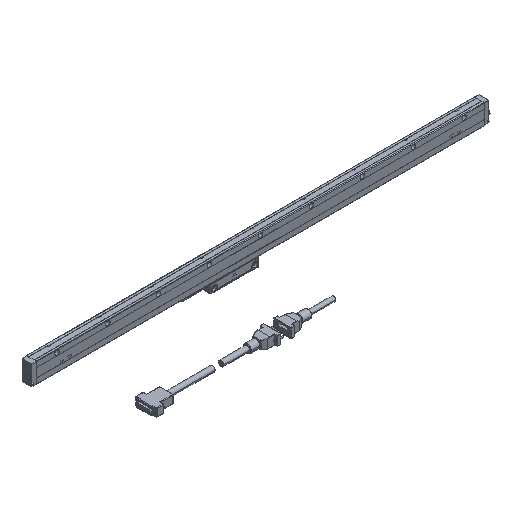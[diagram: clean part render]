
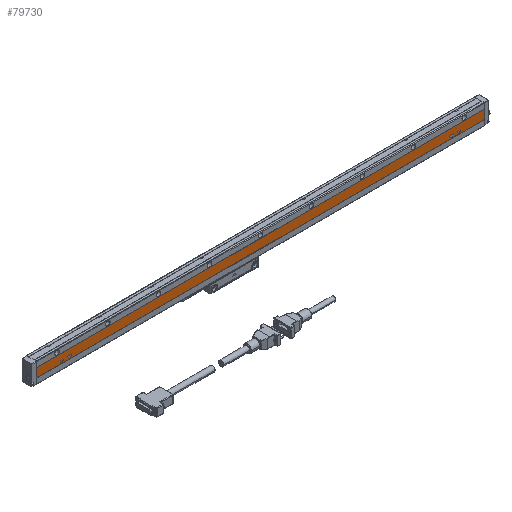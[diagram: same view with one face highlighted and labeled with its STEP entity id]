
A CAD part, isometric view. The second image highlights one B-rep face of the part: STEP entity #79730.
In plain terms, the highlighted planar face has unit normal (0, -1, 0) as drawn and (-1, 0, 0) by its records, which use the part's own axes.
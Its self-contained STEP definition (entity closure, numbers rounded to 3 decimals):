
#1620=CARTESIAN_POINT('',(24.2,81.2,559.));
#1630=VERTEX_POINT('',#1620);
#1660=CARTESIAN_POINT('',(24.2,0.,504.867));
#1670=DIRECTION('',(0.,-0.832,-0.555));
#1680=VECTOR('',#1670,1.);
#1690=LINE('',#1660,#1680);
#1700=CARTESIAN_POINT('',(24.2,75.2,555.));
#1710=VERTEX_POINT('',#1700);
#1720=EDGE_CURVE('',#1630,#1710,#1690,.T.);
#8200=CARTESIAN_POINT('',(24.2,80.2,543.333));
#8210=VERTEX_POINT('',#8200);
#8290=CARTESIAN_POINT('',(24.2,80.2,542.131));
#8300=VERTEX_POINT('',#8290);
#8330=CARTESIAN_POINT('',(24.2,80.2,480.));
#8340=DIRECTION('',(0.,0.,1.));
#8350=VECTOR('',#8340,1.);
#8360=LINE('',#8330,#8350);
#8370=EDGE_CURVE('',#8300,#8210,#8360,.T.);
#14720=CARTESIAN_POINT('',(24.2,0.,590.133));
#14730=DIRECTION('',(0.,0.832,-0.555));
#14740=VECTOR('',#14730,1.);
#14750=LINE('',#14720,#14740);
#14760=CARTESIAN_POINT('',(24.2,75.2,540.));
#14770=VERTEX_POINT('',#14760);
#14780=CARTESIAN_POINT('',(24.2,80.2,536.667));
#14790=VERTEX_POINT('',#14780);
#14800=EDGE_CURVE('',#14770,#14790,#14750,.T.);
#15810=CARTESIAN_POINT('',(24.2,0.,489.867));
#15820=DIRECTION('',(0.,-0.832,-0.555));
#15830=VECTOR('',#15820,1.);
#15840=LINE('',#15810,#15830);
#15850=EDGE_CURVE('',#8210,#14770,#15840,.T.);
#17700=CARTESIAN_POINT('',(24.2,80.2,537.869));
#17710=VERTEX_POINT('',#17700);
#17760=CARTESIAN_POINT('',(24.2,80.2,480.));
#17770=DIRECTION('',(0.,0.,1.));
#17780=VECTOR('',#17770,1.);
#17790=LINE('',#17760,#17780);
#17800=EDGE_CURVE('',#14790,#17710,#17790,.T.);
#18120=CARTESIAN_POINT('',(24.2,77.003,540.));
#18130=VERTEX_POINT('',#18120);
#18160=CARTESIAN_POINT('',(24.2,0.,488.665));
#18170=DIRECTION('',(0.,0.832,0.555));
#18180=VECTOR('',#18170,1.);
#18190=LINE('',#18160,#18180);
#18200=EDGE_CURVE('',#18130,#8300,#18190,.T.);
#21130=CARTESIAN_POINT('',(24.2,0.,591.335));
#21140=DIRECTION('',(0.,-0.832,0.555));
#21150=VECTOR('',#21140,1.);
#21160=LINE('',#21130,#21150);
#21170=EDGE_CURVE('',#17710,#18130,#21160,.T.);
#24560=CARTESIAN_POINT('',(24.2,81.2,551.));
#24570=VERTEX_POINT('',#24560);
#24600=CARTESIAN_POINT('',(24.2,81.2,475.));
#24610=DIRECTION('',(0.,0.,1.));
#24620=VECTOR('',#24610,1.);
#24630=LINE('',#24600,#24620);
#24640=EDGE_CURVE('',#24570,#1630,#24630,.T.);
#43150=CARTESIAN_POINT('',(24.2,75.2,490.));
#43160=VERTEX_POINT('',#43150);
#44740=CARTESIAN_POINT('',(24.2,75.2,0.));
#44750=DIRECTION('',(0.,0.,1.));
#44760=VECTOR('',#44750,1.);
#44770=LINE('',#44740,#44760);
#44780=EDGE_CURVE('',#14770,#1710,#44770,.T.);
#44800=CARTESIAN_POINT('',(24.2,75.2,300.));
#44810=DIRECTION('',(0.,0.,1.));
#44820=VECTOR('',#44810,1.);
#44830=LINE('',#44800,#44820);
#44840=CARTESIAN_POINT('',(24.2,75.2,1305.));
#44850=VERTEX_POINT('',#44840);
#44860=EDGE_CURVE('',#1710,#44850,#44830,.T.);
#44880=CARTESIAN_POINT('',(24.2,75.2,300.));
#44890=DIRECTION('',(0.,0.,1.));
#44900=VECTOR('',#44890,1.);
#44910=LINE('',#44880,#44900);
#44920=CARTESIAN_POINT('',(24.2,75.2,1320.));
#44930=VERTEX_POINT('',#44920);
#44940=EDGE_CURVE('',#44850,#44930,#44910,.T.);
#44960=CARTESIAN_POINT('',(24.2,75.2,1370.));
#44970=VERTEX_POINT('',#44960);
#44980=EDGE_CURVE('',#44930,#44970,#44910,.T.);
#45150=CARTESIAN_POINT('',(24.2,75.2,0.));
#45160=DIRECTION('',(0.,0.,1.));
#45170=VECTOR('',#45160,1.);
#45180=LINE('',#45150,#45170);
#45190=EDGE_CURVE('',#43160,#14770,#45180,.T.);
#60100=CARTESIAN_POINT('',(24.2,92.8,490.));
#60110=VERTEX_POINT('',#60100);
#60140=CARTESIAN_POINT('',(24.2,0.,490.));
#60150=DIRECTION('',(0.,1.,0.));
#60160=VECTOR('',#60150,1.);
#60170=LINE('',#60140,#60160);
#60180=EDGE_CURVE('',#43160,#60110,#60170,.T.);
#65660=CARTESIAN_POINT('',(24.2,0.,605.133));
#65670=DIRECTION('',(0.,0.832,-0.555));
#65680=VECTOR('',#65670,1.);
#65690=LINE('',#65660,#65680);
#65700=EDGE_CURVE('',#1710,#24570,#65690,.T.);
#76740=CARTESIAN_POINT('',(24.2,92.8,1370.));
#76750=VERTEX_POINT('',#76740);
#77250=CARTESIAN_POINT('',(24.2,80.2,1323.333));
#77260=VERTEX_POINT('',#77250);
#77290=CARTESIAN_POINT('',(24.2,0.,1269.867));
#77300=DIRECTION('',(0.,-0.832,-0.555));
#77310=VECTOR('',#77300,1.);
#77320=LINE('',#77290,#77310);
#77330=EDGE_CURVE('',#77260,#44930,#77320,.T.);
#78090=CARTESIAN_POINT('',(24.2,80.2,1322.131));
#78100=VERTEX_POINT('',#78090);
#78130=CARTESIAN_POINT('',(24.2,80.2,300.));
#78140=DIRECTION('',(0.,0.,1.));
#78150=VECTOR('',#78140,1.);
#78160=LINE('',#78130,#78150);
#78170=EDGE_CURVE('',#78100,#77260,#78160,.T.);
#78330=CARTESIAN_POINT('',(24.2,77.003,1320.));
#78340=VERTEX_POINT('',#78330);
#78370=CARTESIAN_POINT('',(24.2,0.,1268.665));
#78380=DIRECTION('',(0.,0.832,0.555));
#78390=VECTOR('',#78380,1.);
#78400=LINE('',#78370,#78390);
#78410=EDGE_CURVE('',#78340,#78100,#78400,.T.);
#78570=CARTESIAN_POINT('',(24.2,80.2,1317.869));
#78580=VERTEX_POINT('',#78570);
#78610=CARTESIAN_POINT('',(24.2,0.,1371.335));
#78620=DIRECTION('',(0.,-0.832,0.555));
#78630=VECTOR('',#78620,1.);
#78640=LINE('',#78610,#78630);
#78650=EDGE_CURVE('',#78580,#78340,#78640,.T.);
#78810=CARTESIAN_POINT('',(24.2,80.2,1316.667));
#78820=VERTEX_POINT('',#78810);
#78850=CARTESIAN_POINT('',(24.2,80.2,300.));
#78860=DIRECTION('',(0.,0.,1.));
#78870=VECTOR('',#78860,1.);
#78880=LINE('',#78850,#78870);
#78890=EDGE_CURVE('',#78820,#78580,#78880,.T.);
#78990=CARTESIAN_POINT('',(24.2,0.,1370.133));
#79000=DIRECTION('',(0.,0.832,-0.555));
#79010=VECTOR('',#79000,1.);
#79020=LINE('',#78990,#79010);
#79030=EDGE_CURVE('',#44930,#78820,#79020,.T.);
#79110=CARTESIAN_POINT('',(24.2,93.,221.));
#79120=DIRECTION('',(1.,0.,0.));
#79130=DIRECTION('',(0.,-1.,0.));
#79140=AXIS2_PLACEMENT_3D('',#79110,#79120,#79130);
#79150=PLANE('',#79140);
#79160=ORIENTED_EDGE('',*,*,#77330,.T.);
#79170=ORIENTED_EDGE('',*,*,#78170,.T.);
#79180=ORIENTED_EDGE('',*,*,#78410,.T.);
#79190=ORIENTED_EDGE('',*,*,#78650,.T.);
#79200=ORIENTED_EDGE('',*,*,#78890,.T.);
#79210=ORIENTED_EDGE('',*,*,#79030,.T.);
#79220=ORIENTED_EDGE('',*,*,#44940,.T.);
#79230=CARTESIAN_POINT('',(24.2,0.,1254.867));
#79240=DIRECTION('',(0.,-0.832,-0.555));
#79250=VECTOR('',#79240,1.);
#79260=LINE('',#79230,#79250);
#79270=CARTESIAN_POINT('',(24.2,81.2,1309.));
#79280=VERTEX_POINT('',#79270);
#79290=EDGE_CURVE('',#79280,#44850,#79260,.T.);
#79300=ORIENTED_EDGE('',*,*,#79290,.T.);
#79310=CARTESIAN_POINT('',(24.2,81.2,225.));
#79320=DIRECTION('',(0.,0.,1.));
#79330=VECTOR('',#79320,1.);
#79340=LINE('',#79310,#79330);
#79350=CARTESIAN_POINT('',(24.2,81.2,1301.));
#79360=VERTEX_POINT('',#79350);
#79370=EDGE_CURVE('',#79360,#79280,#79340,.T.);
#79380=ORIENTED_EDGE('',*,*,#79370,.T.);
#79390=CARTESIAN_POINT('',(24.2,0.,1355.133));
#79400=DIRECTION('',(0.,0.832,-0.555));
#79410=VECTOR('',#79400,1.);
#79420=LINE('',#79390,#79410);
#79430=EDGE_CURVE('',#44850,#79360,#79420,.T.);
#79440=ORIENTED_EDGE('',*,*,#79430,.T.);
#79450=ORIENTED_EDGE('',*,*,#44860,.T.);
#79460=ORIENTED_EDGE('',*,*,#1720,.T.);
#79470=ORIENTED_EDGE('',*,*,#24640,.T.);
#79480=ORIENTED_EDGE('',*,*,#65700,.T.);
#79490=ORIENTED_EDGE('',*,*,#44780,.T.);
#79500=ORIENTED_EDGE('',*,*,#15850,.T.);
#79510=ORIENTED_EDGE('',*,*,#8370,.T.);
#79520=ORIENTED_EDGE('',*,*,#18200,.T.);
#79530=ORIENTED_EDGE('',*,*,#21170,.T.);
#79540=ORIENTED_EDGE('',*,*,#17800,.T.);
#79550=ORIENTED_EDGE('',*,*,#14800,.T.);
#79560=ORIENTED_EDGE('',*,*,#45190,.T.);
#79570=ORIENTED_EDGE('',*,*,#60180,.F.);
#79580=CARTESIAN_POINT('',(24.2,92.8,800.5));
#79590=DIRECTION('',(0.,0.,1.));
#79600=VECTOR('',#79590,1.);
#79610=LINE('',#79580,#79600);
#79620=EDGE_CURVE('',#60110,#76750,#79610,.T.);
#79630=ORIENTED_EDGE('',*,*,#79620,.F.);
#79640=CARTESIAN_POINT('',(24.2,0.,1370.));
#79650=DIRECTION('',(0.,1.,0.));
#79660=VECTOR('',#79650,1.);
#79670=LINE('',#79640,#79660);
#79680=EDGE_CURVE('',#44970,#76750,#79670,.T.);
#79690=ORIENTED_EDGE('',*,*,#79680,.T.);
#79700=ORIENTED_EDGE('',*,*,#44980,.T.);
#79710=EDGE_LOOP('',(#79700,#79690,#79630,#79570,#79560,#79550,#79540,
#79530,#79520,#79510,#79500,#79490,#79480,#79470,#79460,#79450,#79440,
#79380,#79300,#79220,#79210,#79200,#79190,#79180,#79170,#79160));
#79720=FACE_OUTER_BOUND('',#79710,.T.);
#79730=ADVANCED_FACE('',(#79720),#79150,.F.);
